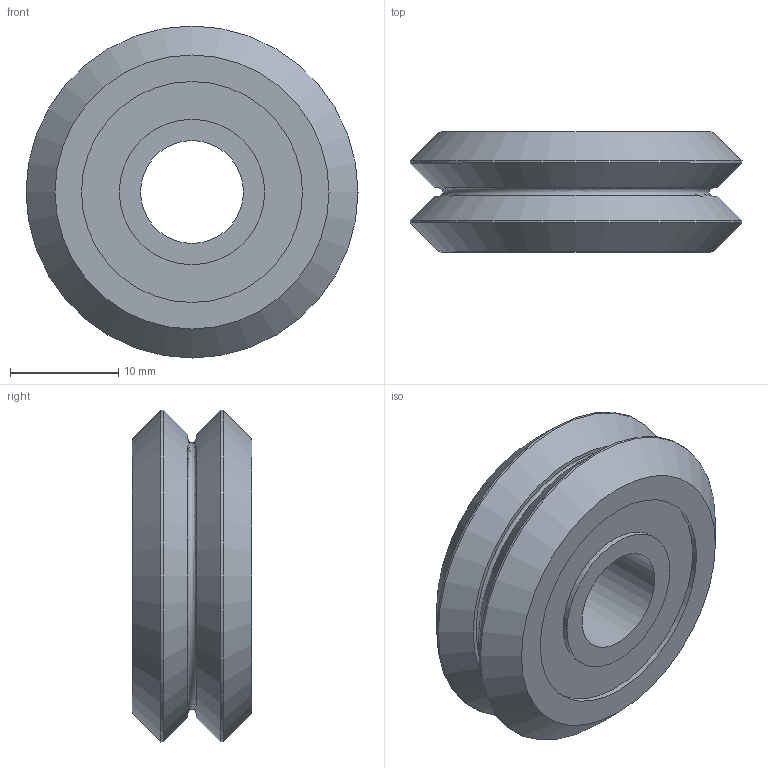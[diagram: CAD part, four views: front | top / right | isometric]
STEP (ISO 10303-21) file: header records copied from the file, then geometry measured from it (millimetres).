
FILE_DESCRIPTION((''),'2;1');
FILE_NAME('C:\Documents and Settings\土屋\My Documents\土屋移動用フォルダ\製品 (図面)\カタログ用3D\リニアガイド\VW\W2UU.stp','2015-02-21T14:11:04',('y'),(''),'Autodesk Inventor 11','Autodesk Inventor 11','');
FILE_SCHEMA(('AUTOMOTIVE_DESIGN { 1 0 10303 214 1 1 1 1 }'));
Length unit declared in the file: millimetre
Products named in the file (1): W2UU
Bounding box: 30.73 x 11.1 x 30.73 mm (x, y, z)
Volume: 5926.7 mm3; surface area: 2747.6 mm2
Topology: 1 solids, 1 shells, 20 faces, 32 edges, 20 vertices
Faces by surface type: plane 8, cylinder 7, cone 4, bspline 1
Full cylindrical faces by diameter (mm): 9.525 x1, 13.46 x2, 20.46 x2, 30.73 x2
Entity records: 507 total; most frequent: CARTESIAN_POINT 141, DIRECTION 80, AXIS2_PLACEMENT_3D 40, ORIENTED_EDGE 40, EDGE_LOOP 40, VERTEX_POINT 20, CIRCLE 20, EDGE_CURVE 20
